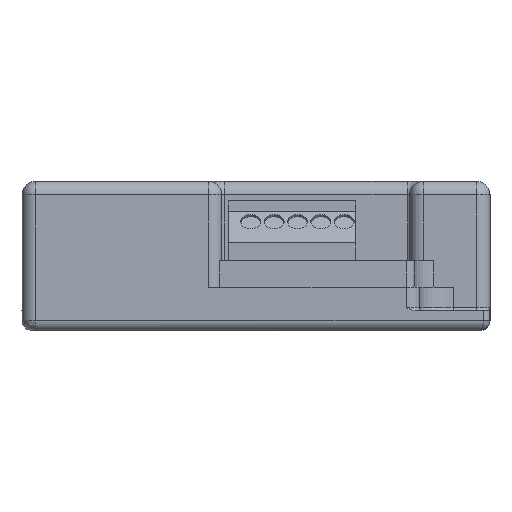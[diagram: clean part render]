
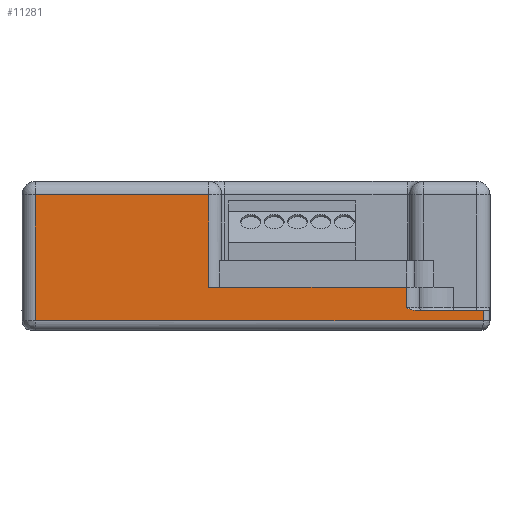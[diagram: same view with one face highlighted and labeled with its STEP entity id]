
A CAD part, front view. The second image highlights one B-rep face of the part: STEP entity #11281.
In plain terms, the highlighted planar face has unit normal (0, -1, 0).
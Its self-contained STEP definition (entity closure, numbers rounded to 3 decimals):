
#453=DIRECTION('',(-1.,0.,0.));
#454=VECTOR('',#453,10.173);
#455=CARTESIAN_POINT('',(34.,-60.,3.));
#456=LINE('',#455,#454);
#877=DIRECTION('',(-1.,0.,0.));
#878=VECTOR('',#877,29.6);
#879=CARTESIAN_POINT('',(22.5,-60.,6.45));
#880=LINE('',#879,#878);
#2568=CARTESIAN_POINT('',(34.,-60.,1.5));
#2573=DIRECTION('',(1.,0.,0.));
#2574=VECTOR('',#2573,25.9);
#2575=CARTESIAN_POINT('',(-33.,-60.,20.3));
#2576=LINE('',#2575,#2574);
#2580=DIRECTION('',(0.,0.,1.));
#2581=VECTOR('',#2580,13.85);
#2582=CARTESIAN_POINT('',(-7.1,-60.,6.45));
#2583=LINE('',#2582,#2581);
#2587=DIRECTION('',(0.,0.,1.));
#2588=VECTOR('',#2587,3.05);
#2589=CARTESIAN_POINT('',(22.5,-60.,3.4));
#2590=LINE('',#2589,#2588);
#2594=DIRECTION('',(0.,0.,-1.));
#2595=VECTOR('',#2594,1.5);
#2596=CARTESIAN_POINT('',(34.,-60.,3.));
#2597=LINE('',#2596,#2595);
#2601=DIRECTION('',(-1.,0.,0.));
#2602=VECTOR('',#2601,67.);
#2603=CARTESIAN_POINT('',(34.,-60.,1.5));
#2604=LINE('',#2603,#2602);
#2608=DIRECTION('',(0.,0.,-1.));
#2609=VECTOR('',#2608,18.8);
#2610=CARTESIAN_POINT('',(-33.,-60.,20.3));
#2611=LINE('',#2610,#2609);
#7789=CARTESIAN_POINT('',(23.827,-60.,3.));
#7790=CARTESIAN_POINT('',(23.75,-60.,3.));
#7791=CARTESIAN_POINT('',(23.592,-60.,3.013));
#7792=CARTESIAN_POINT('',(23.34,-60.,3.069));
#7793=CARTESIAN_POINT('',(23.074,-60.,3.156));
#7794=CARTESIAN_POINT('',(22.795,-60.,3.268));
#7795=CARTESIAN_POINT('',(22.6,-60.,3.355));
#7796=CARTESIAN_POINT('',(22.5,-60.,3.4));
#8750=CARTESIAN_POINT('',(34.,-60.,3.));
#8752=VERTEX_POINT('',#8750);
#8755=VERTEX_POINT('',#2568);
#8907=CARTESIAN_POINT('',(-7.1,-60.,6.45));
#8908=CARTESIAN_POINT('',(-7.1,-60.,20.3));
#8909=VERTEX_POINT('',#8907);
#8910=VERTEX_POINT('',#8908);
#8913=CARTESIAN_POINT('',(-33.,-60.,1.5));
#8915=VERTEX_POINT('',#8913);
#8955=VERTEX_POINT('',#7789);
#8956=VERTEX_POINT('',#7796);
#8987=CARTESIAN_POINT('',(22.5,-60.,6.45));
#8989=VERTEX_POINT('',#8987);
#9525=CARTESIAN_POINT('',(-33.,-60.,20.3));
#9526=VERTEX_POINT('',#9525);
#11259=CARTESIAN_POINT('',(-35.,-60.,0.));
#11260=DIRECTION('',(0.,-1.,0.));
#11261=DIRECTION('',(1.,0.,0.));
#11262=AXIS2_PLACEMENT_3D('',#11259,#11260,#11261);
#11263=PLANE('',#11262);
#11265=ORIENTED_EDGE('',*,*,#11264,.T.);
#11267=ORIENTED_EDGE('',*,*,#11266,.F.);
#11268=ORIENTED_EDGE('',*,*,#10362,.F.);
#11270=ORIENTED_EDGE('',*,*,#11269,.F.);
#11272=ORIENTED_EDGE('',*,*,#11271,.F.);
#11273=ORIENTED_EDGE('',*,*,#10068,.F.);
#11274=ORIENTED_EDGE('',*,*,#11252,.T.);
#11276=ORIENTED_EDGE('',*,*,#11275,.T.);
#11278=ORIENTED_EDGE('',*,*,#11277,.F.);
#11279=EDGE_LOOP('',(#11265,#11267,#11268,#11270,#11272,#11273,#11274,#11276,
#11278));
#11280=FACE_OUTER_BOUND('',#11279,.F.);
#7797=B_SPLINE_CURVE_WITH_KNOTS('',3,(#7789,#7790,#7791,#7792,#7793,#7794,#7795,
#7796),.UNSPECIFIED.,.F.,.F.,(4,1,1,1,1,4),(0.,0.2,0.4,0.6,0.8,1.),
.UNSPECIFIED.);
#10068=EDGE_CURVE('',#8752,#8955,#456,.T.);
#10362=EDGE_CURVE('',#8989,#8909,#880,.T.);
#11252=EDGE_CURVE('',#8752,#8755,#2597,.T.);
#11264=EDGE_CURVE('',#9526,#8910,#2576,.T.);
#11266=EDGE_CURVE('',#8909,#8910,#2583,.T.);
#11269=EDGE_CURVE('',#8956,#8989,#2590,.T.);
#11271=EDGE_CURVE('',#8955,#8956,#7797,.T.);
#11275=EDGE_CURVE('',#8755,#8915,#2604,.T.);
#11277=EDGE_CURVE('',#9526,#8915,#2611,.T.);
#11281=ADVANCED_FACE('',(#11280),#11263,.T.);
